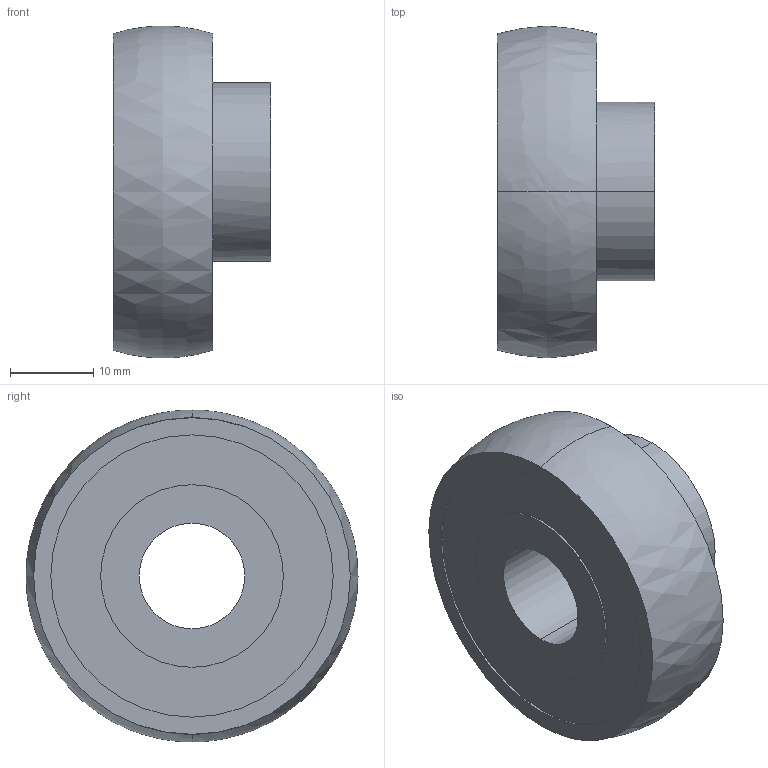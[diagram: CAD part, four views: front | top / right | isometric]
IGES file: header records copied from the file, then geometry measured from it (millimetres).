
Global section: file name: C:\Documents and Settings\Administrator\Desktop\Transfer Temp\bearingspherical0500.igs; native system: AutoDesk Inventor R2.0 ; preprocessor: AutoDesk Inventor Iges Exporter R2.0; author: No Author specified; organization: No Organization specified; date: 20011207.200707; units: millimetre
Bounding box: 19 x 40 x 40 mm (x, y, z)
Surface area: 4857.8 mm2 (no closed solid volume)
Topology: 0 solids, 0 shells, 21 faces, 98 edges, 94 vertices
Faces by surface type: revolution 12, bspline 9
